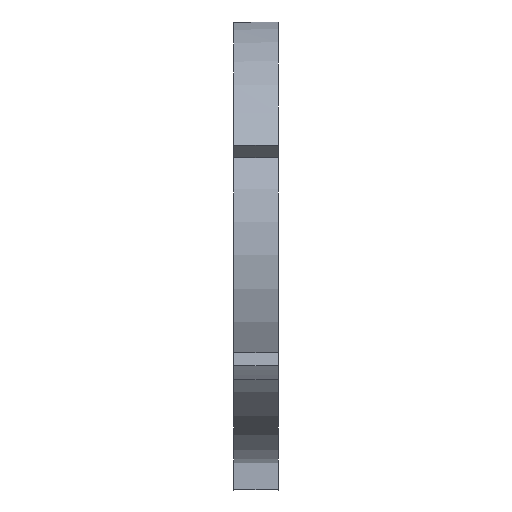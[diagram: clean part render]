
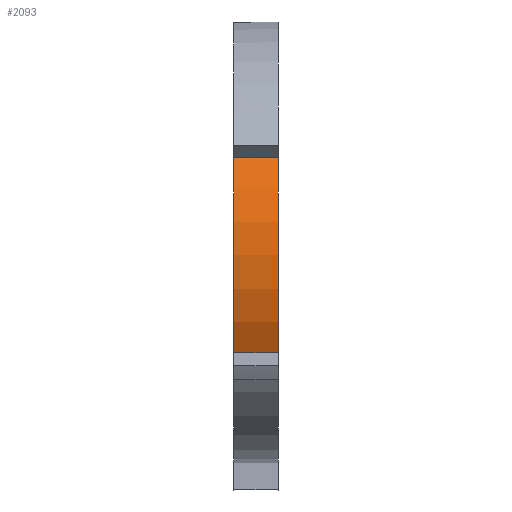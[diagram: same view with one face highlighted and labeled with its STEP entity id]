
A CAD part, front view. The second image highlights one B-rep face of the part: STEP entity #2093.
In plain terms, the highlighted cylindrical face has radius 14.15 mm (diameter 28.3 mm), a partial arc.
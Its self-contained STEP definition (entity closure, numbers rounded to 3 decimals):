
#198 = PLANE('',#199);
#199 = AXIS2_PLACEMENT_3D('',#200,#201,#202);
#200 = CARTESIAN_POINT('',(425.6,0.,0.));
#201 = DIRECTION('',(1.,0.,0.));
#202 = DIRECTION('',(-0.,0.,1.));
#251 = PLANE('',#252);
#252 = AXIS2_PLACEMENT_3D('',#253,#254,#255);
#253 = CARTESIAN_POINT('',(422.6,0.,0.));
#254 = DIRECTION('',(1.,0.,0.));
#255 = DIRECTION('',(-0.,0.,1.));
#720 = VERTEX_POINT('',#721);
#721 = CARTESIAN_POINT('',(422.6,-12.494,6.643));
#734 = PLANE('',#735);
#735 = AXIS2_PLACEMENT_3D('',#736,#737,#738);
#736 = CARTESIAN_POINT('',(421.6,0.,0.));
#737 = DIRECTION('',(0.,-0.469,-0.883));
#738 = DIRECTION('',(0.,-0.883,0.469));
#745 = EDGE_CURVE('',#720,#746,#748,.T.);
#746 = VERTEX_POINT('',#747);
#747 = CARTESIAN_POINT('',(422.6,-12.494,-6.643));
#748 = SURFACE_CURVE('',#749,(#754,#761),.PCURVE_S1.);
#749 = CIRCLE('',#750,14.15);
#750 = AXIS2_PLACEMENT_3D('',#751,#752,#753);
#751 = CARTESIAN_POINT('',(422.6,0.,0.));
#752 = DIRECTION('',(1.,0.,0.));
#753 = DIRECTION('',(-0.,0.,1.));
#754 = PCURVE('',#251,#755);
#755 = DEFINITIONAL_REPRESENTATION('',(#756),#760);
#756 = CIRCLE('',#757,14.15);
#757 = AXIS2_PLACEMENT_2D('',#758,#759);
#758 = CARTESIAN_POINT('',(0.,0.));
#759 = DIRECTION('',(1.,0.));
#760 = ( GEOMETRIC_REPRESENTATION_CONTEXT(2) 
PARAMETRIC_REPRESENTATION_CONTEXT() REPRESENTATION_CONTEXT('2D SPACE',''
  ) );
#761 = PCURVE('',#762,#767);
#762 = CYLINDRICAL_SURFACE('',#763,14.15);
#763 = AXIS2_PLACEMENT_3D('',#764,#765,#766);
#764 = CARTESIAN_POINT('',(420.6,0.,0.));
#765 = DIRECTION('',(1.,0.,0.));
#766 = DIRECTION('',(-0.,0.,1.));
#767 = DEFINITIONAL_REPRESENTATION('',(#768),#772);
#768 = LINE('',#769,#770);
#769 = CARTESIAN_POINT('',(0.,2.));
#770 = VECTOR('',#771,1.);
#771 = DIRECTION('',(1.,0.));
#772 = ( GEOMETRIC_REPRESENTATION_CONTEXT(2) 
PARAMETRIC_REPRESENTATION_CONTEXT() REPRESENTATION_CONTEXT('2D SPACE',''
  ) );
#789 = PLANE('',#790);
#790 = AXIS2_PLACEMENT_3D('',#791,#792,#793);
#791 = CARTESIAN_POINT('',(421.6,-26.488,-14.084));
#792 = DIRECTION('',(0.,-0.469,0.883));
#793 = DIRECTION('',(0.,0.883,0.469));
#1368 = VERTEX_POINT('',#1369);
#1369 = CARTESIAN_POINT('',(425.6,-12.494,6.643));
#1388 = EDGE_CURVE('',#1368,#1389,#1391,.T.);
#1389 = VERTEX_POINT('',#1390);
#1390 = CARTESIAN_POINT('',(425.6,-12.494,-6.643));
#1391 = SURFACE_CURVE('',#1392,(#1397,#1404),.PCURVE_S1.);
#1392 = CIRCLE('',#1393,14.15);
#1393 = AXIS2_PLACEMENT_3D('',#1394,#1395,#1396);
#1394 = CARTESIAN_POINT('',(425.6,0.,0.));
#1395 = DIRECTION('',(1.,0.,0.));
#1396 = DIRECTION('',(-0.,0.,1.));
#1397 = PCURVE('',#198,#1398);
#1398 = DEFINITIONAL_REPRESENTATION('',(#1399),#1403);
#1399 = CIRCLE('',#1400,14.15);
#1400 = AXIS2_PLACEMENT_2D('',#1401,#1402);
#1401 = CARTESIAN_POINT('',(0.,0.));
#1402 = DIRECTION('',(1.,0.));
#1403 = ( GEOMETRIC_REPRESENTATION_CONTEXT(2) 
PARAMETRIC_REPRESENTATION_CONTEXT() REPRESENTATION_CONTEXT('2D SPACE',''
  ) );
#1404 = PCURVE('',#762,#1405);
#1405 = DEFINITIONAL_REPRESENTATION('',(#1406),#1410);
#1406 = LINE('',#1407,#1408);
#1407 = CARTESIAN_POINT('',(0.,5.));
#1408 = VECTOR('',#1409,1.);
#1409 = DIRECTION('',(1.,0.));
#1410 = ( GEOMETRIC_REPRESENTATION_CONTEXT(2) 
PARAMETRIC_REPRESENTATION_CONTEXT() REPRESENTATION_CONTEXT('2D SPACE',''
  ) );
#2072 = EDGE_CURVE('',#746,#1389,#2073,.T.);
#2073 = SURFACE_CURVE('',#2074,(#2078,#2084),.PCURVE_S1.);
#2074 = LINE('',#2075,#2076);
#2075 = CARTESIAN_POINT('',(420.6,-12.494,-6.643));
#2076 = VECTOR('',#2077,1.);
#2077 = DIRECTION('',(1.,0.,0.));
#2078 = PCURVE('',#789,#2079);
#2079 = DEFINITIONAL_REPRESENTATION('',(#2080),#2083);
#2080 = B_SPLINE_CURVE_WITH_KNOTS('',1,(#2081,#2082),.UNSPECIFIED.,.F.,
  .F.,(2,2),(0.5,6.5),.PIECEWISE_BEZIER_KNOTS.);
#2081 = CARTESIAN_POINT('',(15.85,0.5));
#2082 = CARTESIAN_POINT('',(15.85,-5.5));
#2083 = ( GEOMETRIC_REPRESENTATION_CONTEXT(2) 
PARAMETRIC_REPRESENTATION_CONTEXT() REPRESENTATION_CONTEXT('2D SPACE',''
  ) );
#2084 = PCURVE('',#762,#2085);
#2085 = DEFINITIONAL_REPRESENTATION('',(#2086),#2089);
#2086 = B_SPLINE_CURVE_WITH_KNOTS('',1,(#2087,#2088),.UNSPECIFIED.,.F.,
  .F.,(2,2),(0.5,6.5),.PIECEWISE_BEZIER_KNOTS.);
#2087 = CARTESIAN_POINT('',(2.059,0.5));
#2088 = CARTESIAN_POINT('',(2.059,6.5));
#2089 = ( GEOMETRIC_REPRESENTATION_CONTEXT(2) 
PARAMETRIC_REPRESENTATION_CONTEXT() REPRESENTATION_CONTEXT('2D SPACE',''
  ) );
#2093 = ADVANCED_FACE('',(#2094),#762,.T.);
#2094 = FACE_BOUND('',#2095,.T.);
#2095 = EDGE_LOOP('',(#2096,#2115,#2116,#2117));
#2096 = ORIENTED_EDGE('',*,*,#2097,.F.);
#2097 = EDGE_CURVE('',#720,#1368,#2098,.T.);
#2098 = SURFACE_CURVE('',#2099,(#2103,#2109),.PCURVE_S1.);
#2099 = LINE('',#2100,#2101);
#2100 = CARTESIAN_POINT('',(420.6,-12.494,6.643));
#2101 = VECTOR('',#2102,1.);
#2102 = DIRECTION('',(1.,0.,0.));
#2103 = PCURVE('',#762,#2104);
#2104 = DEFINITIONAL_REPRESENTATION('',(#2105),#2108);
#2105 = B_SPLINE_CURVE_WITH_KNOTS('',1,(#2106,#2107),.UNSPECIFIED.,.F.,
  .F.,(2,2),(0.5,6.5),.PIECEWISE_BEZIER_KNOTS.);
#2106 = CARTESIAN_POINT('',(1.082,0.5));
#2107 = CARTESIAN_POINT('',(1.082,6.5));
#2108 = ( GEOMETRIC_REPRESENTATION_CONTEXT(2) 
PARAMETRIC_REPRESENTATION_CONTEXT() REPRESENTATION_CONTEXT('2D SPACE',''
  ) );
#2109 = PCURVE('',#734,#2110);
#2110 = DEFINITIONAL_REPRESENTATION('',(#2111),#2114);
#2111 = B_SPLINE_CURVE_WITH_KNOTS('',1,(#2112,#2113),.UNSPECIFIED.,.F.,
  .F.,(2,2),(0.5,6.5),.PIECEWISE_BEZIER_KNOTS.);
#2112 = CARTESIAN_POINT('',(14.15,0.5));
#2113 = CARTESIAN_POINT('',(14.15,-5.5));
#2114 = ( GEOMETRIC_REPRESENTATION_CONTEXT(2) 
PARAMETRIC_REPRESENTATION_CONTEXT() REPRESENTATION_CONTEXT('2D SPACE',''
  ) );
#2115 = ORIENTED_EDGE('',*,*,#745,.T.);
#2116 = ORIENTED_EDGE('',*,*,#2072,.T.);
#2117 = ORIENTED_EDGE('',*,*,#1388,.F.);
